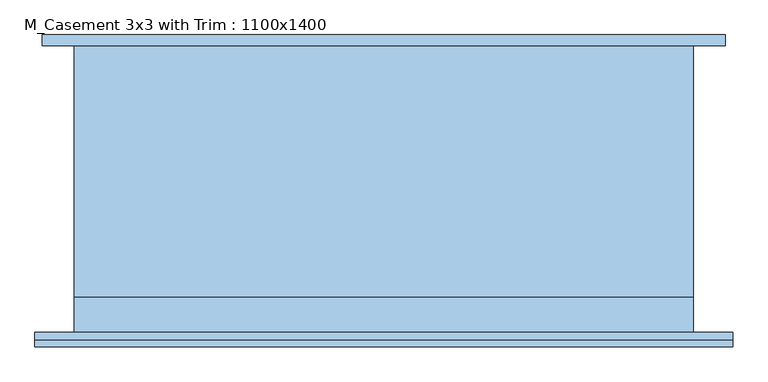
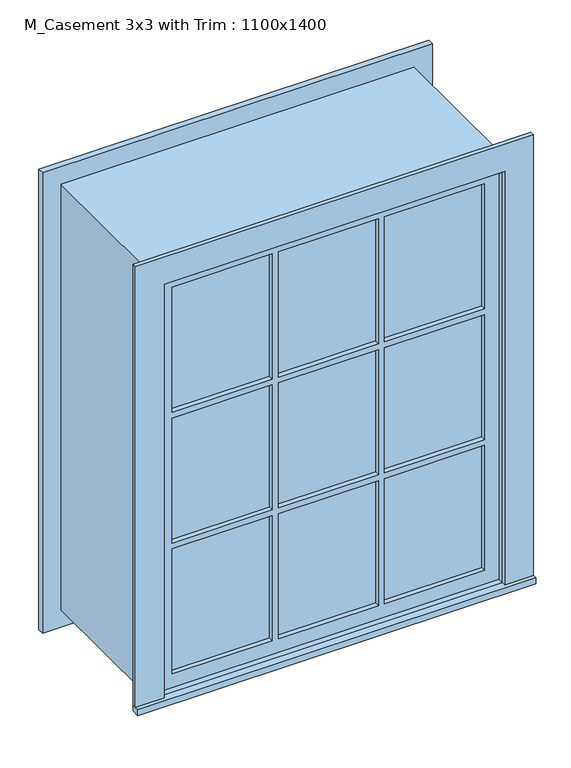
"""IFC4 building model written with IfcOpenShell, lengths in millimetres: window geometry, M_Casement 3x3 with Trim : 1100x1400."""

import ifcopenshell
import ifcopenshell.guid

model = None  # the IFC model being written
_history = None  # IfcOwnerHistory: only IFC2X3 demands one
_inside = {}  # id of a spatial element -> (the spatial element, [elements in it])
_under = {}  # id of a project, library or spatial element -> (it, [spatial elements below it])
_declared = {}  # id of a project -> (the project, [libraries it declares])
_typed = {}  # id of a type object -> (the type object, [elements of that type])
_made_of = {}  # id of a material, layer set ... -> (it, [elements and type objects made of it])


def new_model(schema):
    """Start an empty IFC model of exactly this schema.

    Asked for "IFC4X3", IfcOpenShell would pick the latest addendum, in which some entities
    have other attributes; the version numbers below select the first issue.
    IFC2X3 requires an IfcOwnerHistory on every rooted entity: one is made here for all.
    """
    global model, _history
    if schema == "IFC4X3":
        model = ifcopenshell.file(schema_version=(4, 3, 0, 0))
    else:
        model = ifcopenshell.file(schema=schema)
    _inside.clear()
    _under.clear()
    _declared.clear()
    _typed.clear()
    _made_of.clear()
    _history = None
    if model.schema == "IFC2X3":
        org = make("IfcOrganization", Name="unknown")
        user = make(
            "IfcPersonAndOrganization",
            ThePerson=make("IfcPerson", FamilyName="unknown"),
            TheOrganization=org,
        )
        app = make(
            "IfcApplication",
            ApplicationDeveloper=org,
            Version="unknown",
            ApplicationFullName="unknown",
            ApplicationIdentifier="unknown",
        )
        _history = make(
            "IfcOwnerHistory",
            OwningUser=user,
            OwningApplication=app,
            ChangeAction="ADDED",
            CreationDate=0,
        )
    return model


def make(cls, **values):
    """One entity of the class cls with the attributes given. An attribute that is None is left unset."""
    return model.create_entity(
        cls, **{name: value for name, value in values.items() if value is not None}
    )


def rooted(cls, **values):
    """An entity with a GlobalId (a new one), such as an element, a storey or a relation."""
    return make(cls, GlobalId=ifcopenshell.guid.new(), OwnerHistory=_history, **values)


def si_unit(unit_type, name, prefix=None):
    """IfcSIUnit, for example si_unit("LENGTHUNIT", "METRE", prefix="MILLI")."""
    return make("IfcSIUnit", UnitType=unit_type, Prefix=prefix, Name=name)


def assignment(units):
    """IfcUnitAssignment: the units of a project."""
    return None if units is None else make("IfcUnitAssignment", Units=units)


def point(xyz):
    """IfcCartesianPoint."""
    return None if xyz is None else make("IfcCartesianPoint", Coordinates=xyz)


def direction(xyz):
    """IfcDirection."""
    return None if xyz is None else make("IfcDirection", DirectionRatios=xyz)


def frame(location, z_axis=None, x_axis=None):
    """IfcAxis2Placement3D, a coordinate frame: its origin and axes. An axis left out is left unset."""
    return make(
        "IfcAxis2Placement3D",
        Location=point(location),
        Axis=direction(z_axis),
        RefDirection=direction(x_axis),
    )


def origin():
    """The frame at (0, 0, 0) with its axes left unset."""
    return frame((0.0, 0.0, 0.0))


def place(relative_to, where):
    """IfcLocalPlacement: puts the frame where relative to a parent placement (None: the world)."""
    return make(
        "IfcLocalPlacement", PlacementRelTo=relative_to, RelativePlacement=where
    )


def context(
    kind, dimensions, precision=None, world=None, true_north=None, identifier=None
):
    """IfcGeometricRepresentationContext, for example the 3D "Model" context."""
    return make(
        "IfcGeometricRepresentationContext",
        ContextIdentifier=identifier,
        ContextType=kind,
        CoordinateSpaceDimension=dimensions,
        Precision=precision,
        WorldCoordinateSystem=world,
        TrueNorth=true_north,
    )


def project(units=None, contexts=None):
    """IfcProject with its units and contexts."""
    return rooted(
        "IfcProject",
        Name="project",
        RepresentationContexts=contexts,
        UnitsInContext=assignment(units),
    )


def spatial(cls, under=None, at=None, **own):
    """A site, building, storey or space (cls), placed at a placement, below another one or the project."""
    s = rooted(cls, ObjectPlacement=at, **own)
    if under is not None:
        _under.setdefault(under.id(), (under, []))[1].append(s)
    return s


def polyline(points):
    """IfcPolyline through the points."""
    return make("IfcPolyline", Points=[point(p) for p in points])


def outline(outer, holes=None, kind="AREA"):
    """IfcArbitraryClosedProfileDef: a profile drawn as a closed curve; with holes, ...WithVoids."""
    if holes is None:
        return make("IfcArbitraryClosedProfileDef", ProfileType=kind, OuterCurve=outer)
    return make(
        "IfcArbitraryProfileDefWithVoids",
        ProfileType=kind,
        OuterCurve=outer,
        InnerCurves=holes,
    )


def extrude(swept, where, along, depth):
    """IfcExtrudedAreaSolid: the profile swept, set in the frame where, extruded along a direction by depth."""
    return make(
        "IfcExtrudedAreaSolid",
        SweptArea=swept,
        Position=where,
        ExtrudedDirection=direction(along),
        Depth=depth,
    )


def shape(context_of_items, identifier, shape_type, items):
    """IfcShapeRepresentation: the items that make up one representation, for example the "Body"."""
    return make(
        "IfcShapeRepresentation",
        ContextOfItems=context_of_items,
        RepresentationIdentifier=identifier,
        RepresentationType=shape_type,
        Items=items,
    )


def source(mapping_origin, context_of_items, identifier, shape_type, items):
    """IfcRepresentationMap: a shape defined once, which mapped items show again and again."""
    return make(
        "IfcRepresentationMap",
        MappingOrigin=mapping_origin,
        MappedRepresentation=shape(context_of_items, identifier, shape_type, items),
    )


def transform(
    local_origin,
    x_axis=None,
    y_axis=None,
    z_axis=None,
    scale=None,
    scale2=None,
    scale3=None,
    uniform=True,
):
    """IfcCartesianTransformationOperator3D, or its non-uniform kind. x_axis, y_axis, z_axis: its Axis1, 2, 3."""
    if uniform:
        return make(
            "IfcCartesianTransformationOperator3D",
            Axis1=direction(x_axis),
            Axis2=direction(y_axis),
            LocalOrigin=point(local_origin),
            Scale=scale,
            Axis3=direction(z_axis),
        )
    return make(
        "IfcCartesianTransformationOperator3DnonUniform",
        Axis1=direction(x_axis),
        Axis2=direction(y_axis),
        LocalOrigin=point(local_origin),
        Scale=scale,
        Axis3=direction(z_axis),
        Scale2=scale2,
        Scale3=scale3,
    )


def mapped(mapping_source, mapping_target):
    """IfcMappedItem: shows the shape of a source again, moved by a transform."""
    return make(
        "IfcMappedItem", MappingSource=mapping_source, MappingTarget=mapping_target
    )


def made_of(thing, what):
    """Note that an element or type object is made of a material, layer set ...; save() writes the relation."""
    if what is not None:
        _made_of.setdefault(what.id(), (what, []))[1].append(thing)
    return thing


def element(
    cls,
    number,
    at=None,
    inside=None,
    cuts=None,
    type_object=None,
    material=None,
    context=None,
    identifier="Body",
    shape_type=None,
    held_by="IfcProductDefinitionShape",
    body=None,
    shapes=None,
    **own,
):
    """One element of the class cls, such as IfcWall. Its Tag is "e" and its number.

    at: its placement. inside: the storey or other place that contains it. cuts: it is an
    opening in that element (IfcRelVoidsElement). A single representation is given by context,
    identifier, shape_type and body (its items); several are given by shapes. held_by: the class
    of the entity that holds the representations. save() writes the other relations.
    """
    e = rooted(cls, Tag="e%d" % number, ObjectPlacement=at, **own)
    if body is not None:
        shapes = [shape(context, identifier, shape_type, body)]
    if shapes is not None:
        e.Representation = make(held_by, Representations=shapes)
    if inside is not None:
        _inside.setdefault(inside.id(), (inside, []))[1].append(e)
    if cuts is not None:
        rooted(
            "IfcRelVoidsElement", RelatingBuildingElement=cuts, RelatedOpeningElement=e
        )
    if type_object is not None:
        _typed.setdefault(type_object.id(), (type_object, []))[1].append(e)
    return made_of(e, material)


def aggregate(whole, parts):
    """IfcRelAggregates: a whole, such as a stair, and the parts it consists of."""
    return rooted("IfcRelAggregates", RelatingObject=whole, RelatedObjects=parts)


def save(model, path):
    """Write the relations noted so far, then the file.

    IfcRelAggregates (storeys below a building ...), IfcRelContainedInSpatialStructure (elements
    in a storey), IfcRelDefinesByType, IfcRelAssociatesMaterial and IfcRelDeclares: one each for
    every whole, place, type object, material and project.
    """
    for whole, parts in _under.values():
        aggregate(whole, parts)
    for where, things in _inside.values():
        rooted(
            "IfcRelContainedInSpatialStructure",
            RelatedElements=things,
            RelatingStructure=where,
        )
    for kind, things in _typed.values():
        rooted("IfcRelDefinesByType", RelatedObjects=things, RelatingType=kind)
    for what, things in _made_of.values():
        rooted("IfcRelAssociatesMaterial", RelatedObjects=things, RelatingMaterial=what)
    for by, libraries in _declared.values():
        rooted("IfcRelDeclares", RelatingContext=by, RelatedDefinitions=libraries)
    model.write(path)


def m_casement_3x3_with_trim_1100x1400_3cb4fc06(model_context):
    return source(origin(), model_context, "Body", "SweptSolid", [
        extrude(outline(polyline([(-619.95, -280.7), (-619.95, -255.0), (619.95, -255.0), (619.95, -280.7), (-619.95, -280.7)])), frame((0.0, 0.0, 915.0), z_axis=(0.0, 0.0, 1.0), x_axis=(1.0, 0.0, 0.0)), (0.0, 0.0, 1.0), 19.05),
        extrude(outline(polyline([(2295.95, -530.95), (2295.95, 530.95), (934.05, 530.95), (934.05, 619.95), (2384.95, 619.95), (2384.95, -619.95), (934.05, -619.95), (934.05, -530.95), (2295.95, -530.95)])), frame((0.0, -268.0, 0.0), z_axis=(0.0, 1.0, 0.0), x_axis=(0.0, 0.0, 1.0)), (0.0, 0.0, 1.0), 13.0),
        extrude(outline(polyline([(174.8666667, -220.125), (174.8666667, -207.425), (486.5, -207.425), (486.5, -220.125), (174.8666667, -220.125)])), frame((0.0, 0.0, 1839.8666667), z_axis=(0.0, 0.0, 1.0), x_axis=(1.0, 0.0, 0.0)), (0.0, 0.0, 1.0), 411.6333333),
        extrude(outline(polyline([(-155.8166667, -220.125), (-155.8166667, -207.425), (155.8166667, -207.425), (155.8166667, -220.125), (-155.8166667, -220.125)])), frame((0.0, 0.0, 1839.8666667), z_axis=(0.0, 0.0, 1.0), x_axis=(1.0, 0.0, 0.0)), (0.0, 0.0, 1.0), 411.6333333),
        extrude(outline(polyline([(-486.5, -220.125), (-486.5, -207.425), (-174.8666667, -207.425), (-174.8666667, -220.125), (-486.5, -220.125)])), frame((0.0, 0.0, 1839.8666667), z_axis=(0.0, 0.0, 1.0), x_axis=(1.0, 0.0, 0.0)), (0.0, 0.0, 1.0), 411.6333333),
        extrude(outline(polyline([(-486.5, -220.125), (-486.5, -207.425), (-174.8666667, -207.425), (-174.8666667, -220.125), (-486.5, -220.125)])), frame((0.0, 0.0, 1409.1833333), z_axis=(0.0, 0.0, 1.0), x_axis=(1.0, 0.0, 0.0)), (0.0, 0.0, 1.0), 411.6333333),
        extrude(outline(polyline([(-155.8166667, -220.125), (-155.8166667, -207.425), (155.8166667, -207.425), (155.8166667, -220.125), (-155.8166667, -220.125)])), frame((0.0, 0.0, 1409.1833333), z_axis=(0.0, 0.0, 1.0), x_axis=(1.0, 0.0, 0.0)), (0.0, 0.0, 1.0), 411.6333333),
        extrude(outline(polyline([(174.8666667, -220.125), (174.8666667, -207.425), (486.5, -207.425), (486.5, -220.125), (174.8666667, -220.125)])), frame((0.0, 0.0, 1409.1833333), z_axis=(0.0, 0.0, 1.0), x_axis=(1.0, 0.0, 0.0)), (0.0, 0.0, 1.0), 411.6333333),
        extrude(outline(polyline([(174.8666667, -220.125), (174.8666667, -207.425), (486.5, -207.425), (486.5, -220.125), (174.8666667, -220.125)])), frame((0.0, 0.0, 978.5), z_axis=(0.0, 0.0, 1.0), x_axis=(1.0, 0.0, 0.0)), (0.0, 0.0, 1.0), 411.6333333),
        extrude(outline(polyline([(-155.8166667, -220.125), (-155.8166667, -207.425), (155.8166667, -207.425), (155.8166667, -220.125), (-155.8166667, -220.125)])), frame((0.0, 0.0, 978.5), z_axis=(0.0, 0.0, 1.0), x_axis=(1.0, 0.0, 0.0)), (0.0, 0.0, 1.0), 411.6333333),
        extrude(outline(polyline([(-486.5, -220.125), (-486.5, -207.425), (-174.8666667, -207.425), (-174.8666667, -220.125), (-486.5, -220.125)])), frame((0.0, 0.0, 978.5), z_axis=(0.0, 0.0, 1.0), x_axis=(1.0, 0.0, 0.0)), (0.0, 0.0, 1.0), 411.6333333),
        extrude(outline(polyline([(2372.25, 607.25), (2372.25, -607.25), (857.75, -607.25), (857.75, 607.25), (2372.25, 607.25)]), holes=[polyline([(2283.25, 518.25), (946.75, 518.25), (946.75, -518.25), (2283.25, -518.25), (2283.25, 518.25)])]), frame((0.0, 255.0, 0.0), z_axis=(0.0, 1.0, 0.0), x_axis=(0.0, 0.0, 1.0)), (0.0, 0.0, 1.0), 19.0),
        extrude(outline(polyline([(2295.95, -530.95), (934.05, -530.95), (934.05, 530.95), (2295.95, 530.95), (2295.95, -530.95)]), holes=[polyline([(2251.5, -174.8666667), (1839.8666667, -174.8666667), (1839.8666667, -486.5), (2251.5, -486.5), (2251.5, -174.8666667)]), polyline([(1820.8166667, -174.8666667), (1409.1833333, -174.8666667), (1409.1833333, -486.5), (1820.8166667, -486.5), (1820.8166667, -174.8666667)]), polyline([(1390.1333333, -174.8666667), (978.5, -174.8666667), (978.5, -486.5), (1390.1333333, -486.5), (1390.1333333, -174.8666667)]), polyline([(2251.5, 155.8166667), (1839.8666667, 155.8166667), (1839.8666667, -155.8166667), (2251.5, -155.8166667), (2251.5, 155.8166667)]), polyline([(1820.8166667, 155.8166667), (1409.1833333, 155.8166667), (1409.1833333, -155.8166667), (1820.8166667, -155.8166667), (1820.8166667, 155.8166667)]), polyline([(1390.1333333, 155.8166667), (978.5, 155.8166667), (978.5, -155.8166667), (1390.1333333, -155.8166667), (1390.1333333, 155.8166667)]), polyline([(2251.5, 486.5), (1839.8666667, 486.5), (1839.8666667, 174.8666667), (2251.5, 174.8666667), (2251.5, 486.5)]), polyline([(1820.8166667, 486.5), (1409.1833333, 486.5), (1409.1833333, 174.8666667), (1820.8166667, 174.8666667), (1820.8166667, 486.5)]), polyline([(1390.1333333, 486.5), (978.5, 486.5), (978.5, 174.8666667), (1390.1333333, 174.8666667), (1390.1333333, 486.5)])]), frame((0.0, -236.0, 0.0), z_axis=(0.0, 1.0, 0.0), x_axis=(0.0, 0.0, 1.0)), (0.0, 0.0, 1.0), 44.45),
        extrude(outline(polyline([(2315.0, -550.0), (915.0, -550.0), (915.0, 550.0), (2315.0, 550.0), (2315.0, -550.0)]), holes=[polyline([(2283.25, -518.25), (2283.25, 518.25), (946.75, 518.25), (946.75, -518.25), (2283.25, -518.25)])]), frame((0.0, -191.55, 0.0), z_axis=(0.0, 1.0, 0.0), x_axis=(0.0, 0.0, 1.0)), (0.0, 0.0, 1.0), 446.55),
        extrude(outline(polyline([(2315.0, 550.0), (2315.0, -550.0), (915.0, -550.0), (915.0, 550.0), (2315.0, 550.0)]), holes=[polyline([(2295.95, 530.95), (934.05, 530.95), (934.05, -530.95), (2295.95, -530.95), (2295.95, 530.95)])]), frame((0.0, -255.0, 0.0), z_axis=(0.0, 1.0, 0.0), x_axis=(0.0, 0.0, 1.0)), (0.0, 0.0, 1.0), 63.45),
    ])


if __name__ == "__main__":
    model = new_model("IFC4")
    model_context = context("Model", 3, world=origin())
    ifc_project = project(units=[si_unit("LENGTHUNIT", "METRE", prefix="MILLI")], contexts=[model_context])
    site = spatial("IfcSite", under=ifc_project)
    building = spatial("IfcBuilding", under=site)
    placement = place(None, origin())
    m_casement_3x3_with_trim_1100x1400_shape = m_casement_3x3_with_trim_1100x1400_3cb4fc06(model_context)
    element("IfcWindow", 1, ObjectType="M_Casement 3x3 with Trim : 1100x1400", at=placement, inside=building, context=model_context, shape_type="MappedRepresentation", body=[
        mapped(m_casement_3x3_with_trim_1100x1400_shape, transform((0.0, 0.0, 0.0), x_axis=(1.0, 0.0, 0.0), y_axis=(0.0, 1.0, 0.0), z_axis=(0.0, 0.0, 1.0))),
    ])
    save(model, "model.ifc")
